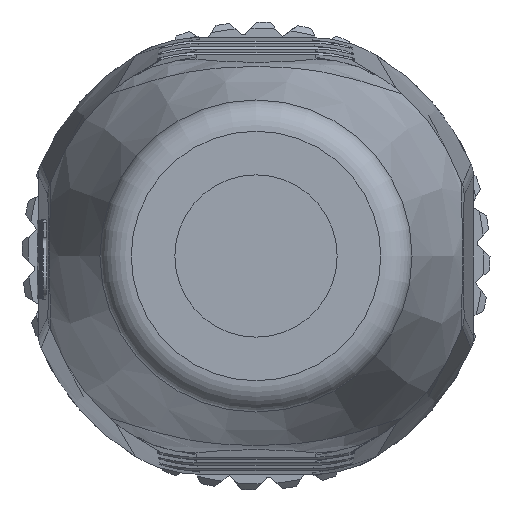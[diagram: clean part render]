
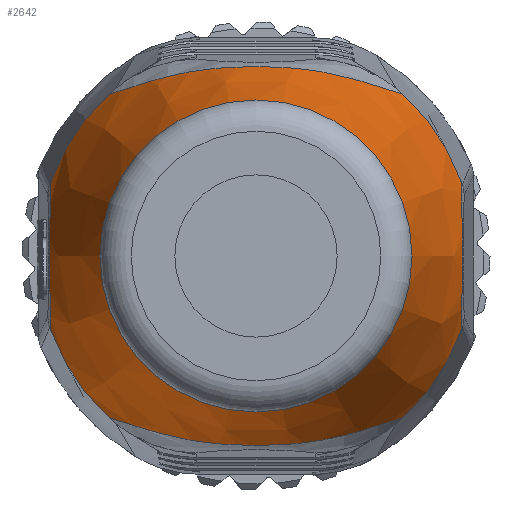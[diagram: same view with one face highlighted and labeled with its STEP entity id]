
A CAD part, front view. The second image highlights one B-rep face of the part: STEP entity #2642.
In plain terms, the highlighted conical face has half-angle 15.945 degrees and reference radius 5 mm.
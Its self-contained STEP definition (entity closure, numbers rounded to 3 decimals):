
#184=CONICAL_SURFACE('',#9843,5.,15.945);
#1059=B_SPLINE_CURVE_WITH_KNOTS('',3,(#14063,#14064,#14065,#14066,#14067,
#14068,#14069,#14070,#14071,#14072,#14073,#14074,#14075,#14076),
 .UNSPECIFIED.,.F.,.F.,(4,2,2,2,2,2,4),(0.,0.125,0.25,0.5,0.625,0.75,1.),
 .UNSPECIFIED.);
#1060=B_SPLINE_CURVE_WITH_KNOTS('',3,(#14080,#14081,#14082,#14083,#14084,
#14085,#14086,#14087,#14088,#14089,#14090,#14091,#14092,#14093,#14094,#14095,
#14096,#14097,#14098,#14099,#14100,#14101),.UNSPECIFIED.,.F.,.F.,(4,2,2,
2,2,2,2,2,2,2,4),(0.,0.125,0.188,0.219,0.25,0.5,0.625,0.688,0.719,
0.75,1.),.UNSPECIFIED.);
#1061=B_SPLINE_CURVE_WITH_KNOTS('',3,(#14105,#14106,#14107,#14108,#14109,
#14110,#14111,#14112,#14113,#14114,#14115,#14116,#14117,#14118),
 .UNSPECIFIED.,.F.,.F.,(4,2,2,2,2,2,4),(0.,0.125,0.25,0.5,0.625,0.75,1.),
 .UNSPECIFIED.);
#1062=B_SPLINE_CURVE_WITH_KNOTS('',3,(#14122,#14123,#14124,#14125,#14126,
#14127,#14128,#14129,#14130,#14131,#14132,#14133,#14134,#14135,#14136,#14137,
#14138,#14139,#14140,#14141,#14142,#14143),.UNSPECIFIED.,.F.,.F.,(4,2,2,
2,2,2,2,2,2,2,4),(0.,0.125,0.188,0.219,0.25,0.5,0.625,0.688,0.719,
0.75,1.),.UNSPECIFIED.);
#2642=ADVANCED_FACE('',(#3369,#3370),#184,.T.);
#3369=FACE_BOUND('',#3575,.T.);
#3370=FACE_BOUND('',#3576,.T.);
#3575=EDGE_LOOP('',(#4341));
#3576=EDGE_LOOP('',(#4342,#4343,#4344,#4345,#4346,#4347,#4348,#4349));
#4341=ORIENTED_EDGE('',*,*,#8104,.F.);
#4342=ORIENTED_EDGE('',*,*,#8105,.T.);
#4343=ORIENTED_EDGE('',*,*,#8106,.T.);
#4344=ORIENTED_EDGE('',*,*,#8107,.T.);
#4345=ORIENTED_EDGE('',*,*,#8108,.T.);
#4346=ORIENTED_EDGE('',*,*,#8109,.T.);
#4347=ORIENTED_EDGE('',*,*,#8110,.T.);
#4348=ORIENTED_EDGE('',*,*,#8111,.T.);
#4349=ORIENTED_EDGE('',*,*,#8112,.T.);
#7129=VERTEX_POINT('',#14059);
#7130=VERTEX_POINT('',#14061);
#7131=VERTEX_POINT('',#14062);
#7132=VERTEX_POINT('',#14077);
#7133=VERTEX_POINT('',#14079);
#7134=VERTEX_POINT('',#14102);
#7135=VERTEX_POINT('',#14104);
#7136=VERTEX_POINT('',#14119);
#7137=VERTEX_POINT('',#14121);
#8104=EDGE_CURVE('',#7129,#7129,#9391,.T.);
#8105=EDGE_CURVE('',#7130,#7131,#9392,.T.);
#8106=EDGE_CURVE('',#7131,#7132,#1059,.T.);
#8107=EDGE_CURVE('',#7132,#7133,#9393,.T.);
#8108=EDGE_CURVE('',#7133,#7134,#1060,.T.);
#8109=EDGE_CURVE('',#7134,#7135,#9394,.T.);
#8110=EDGE_CURVE('',#7135,#7136,#1061,.T.);
#8111=EDGE_CURVE('',#7136,#7137,#9395,.T.);
#8112=EDGE_CURVE('',#7137,#7130,#1062,.T.);
#9391=CIRCLE('',#9838,5.);
#9392=CIRCLE('',#9839,7.);
#9393=CIRCLE('',#9840,7.);
#9394=CIRCLE('',#9841,7.);
#9395=CIRCLE('',#9842,7.);
#9838=AXIS2_PLACEMENT_3D('',#14058,#10889,#10890);
#9839=AXIS2_PLACEMENT_3D('',#14060,#10891,#10892);
#9840=AXIS2_PLACEMENT_3D('',#14078,#10893,#10894);
#9841=AXIS2_PLACEMENT_3D('',#14103,#10895,#10896);
#9842=AXIS2_PLACEMENT_3D('',#14120,#10897,#10898);
#9843=AXIS2_PLACEMENT_3D('',#14144,#10899,#10900);
#10889=DIRECTION('',(0.,-1.,0.));
#10890=DIRECTION('',(1.,0.,0.));
#10891=DIRECTION('',(0.,-1.,0.));
#10892=DIRECTION('',(1.,0.,0.));
#10893=DIRECTION('',(0.,-1.,0.));
#10894=DIRECTION('',(1.,0.,0.));
#10895=DIRECTION('',(0.,-1.,0.));
#10896=DIRECTION('',(1.,0.,0.));
#10897=DIRECTION('',(0.,-1.,0.));
#10898=DIRECTION('',(1.,0.,0.));
#10899=DIRECTION('',(0.,1.,0.));
#10900=DIRECTION('',(1.,0.,0.));
#14058=CARTESIAN_POINT('',(0.,-18.1,0.));
#14059=CARTESIAN_POINT('',(5.,-18.1,0.));
#14060=CARTESIAN_POINT('',(0.,-11.1,0.));
#14061=CARTESIAN_POINT('',(4.699,-11.1,-5.189));
#14062=CARTESIAN_POINT('',(6.576,-11.1,-2.399));
#14063=CARTESIAN_POINT('',(6.576,-11.1,-2.399));
#14064=CARTESIAN_POINT('',(6.581,-11.298,-2.221));
#14065=CARTESIAN_POINT('',(6.585,-11.475,-2.044));
#14066=CARTESIAN_POINT('',(6.594,-11.785,-1.689));
#14067=CARTESIAN_POINT('',(6.596,-11.889,-1.559));
#14068=CARTESIAN_POINT('',(6.609,-12.314,-0.887));
#14069=CARTESIAN_POINT('',(6.613,-12.455,-0.448));
#14070=CARTESIAN_POINT('',(6.613,-12.455,0.224));
#14071=CARTESIAN_POINT('',(6.612,-12.419,0.446));
#14072=CARTESIAN_POINT('',(6.607,-12.278,0.891));
#14073=CARTESIAN_POINT('',(6.604,-12.142,1.159));
#14074=CARTESIAN_POINT('',(6.594,-11.805,1.691));
#14075=CARTESIAN_POINT('',(6.586,-11.495,2.043));
#14076=CARTESIAN_POINT('',(6.576,-11.1,2.399));
#14077=CARTESIAN_POINT('',(6.576,-11.1,2.399));
#14078=CARTESIAN_POINT('',(0.,-11.1,0.));
#14079=CARTESIAN_POINT('',(4.699,-11.1,5.189));
#14080=CARTESIAN_POINT('',(4.699,-11.1,5.189));
#14081=CARTESIAN_POINT('',(4.429,-11.534,5.265));
#14082=CARTESIAN_POINT('',(4.129,-11.933,5.365));
#14083=CARTESIAN_POINT('',(3.626,-12.478,5.525));
#14084=CARTESIAN_POINT('',(3.449,-12.651,5.58));
#14085=CARTESIAN_POINT('',(3.169,-12.897,5.661));
#14086=CARTESIAN_POINT('',(3.073,-12.977,5.687));
#14087=CARTESIAN_POINT('',(2.877,-13.132,5.74));
#14088=CARTESIAN_POINT('',(2.802,-13.19,5.759));
#14089=CARTESIAN_POINT('',(1.642,-14.013,6.035));
#14090=CARTESIAN_POINT('',(0.759,-14.379,6.063));
#14091=CARTESIAN_POINT('',(-0.38,-14.379,6.063));
#14092=CARTESIAN_POINT('',(-0.788,-14.288,6.054));
#14093=CARTESIAN_POINT('',(-1.455,-14.013,5.998));
#14094=CARTESIAN_POINT('',(-1.686,-13.899,5.972));
#14095=CARTESIAN_POINT('',(-2.046,-13.693,5.917));
#14096=CARTESIAN_POINT('',(-2.168,-13.619,5.896));
#14097=CARTESIAN_POINT('',(-2.417,-13.458,5.848));
#14098=CARTESIAN_POINT('',(-2.57,-13.354,5.814));
#14099=CARTESIAN_POINT('',(-3.498,-12.695,5.593));
#14100=CARTESIAN_POINT('',(-4.16,-11.968,5.342));
#14101=CARTESIAN_POINT('',(-4.699,-11.1,5.189));
#14102=CARTESIAN_POINT('',(-4.699,-11.1,5.189));
#14103=CARTESIAN_POINT('',(0.,-11.1,0.));
#14104=CARTESIAN_POINT('',(-6.576,-11.1,2.399));
#14105=CARTESIAN_POINT('',(-6.576,-11.1,2.399));
#14106=CARTESIAN_POINT('',(-6.581,-11.298,2.221));
#14107=CARTESIAN_POINT('',(-6.585,-11.475,2.044));
#14108=CARTESIAN_POINT('',(-6.594,-11.785,1.689));
#14109=CARTESIAN_POINT('',(-6.596,-11.889,1.559));
#14110=CARTESIAN_POINT('',(-6.609,-12.314,0.887));
#14111=CARTESIAN_POINT('',(-6.613,-12.455,0.448));
#14112=CARTESIAN_POINT('',(-6.613,-12.455,-0.224));
#14113=CARTESIAN_POINT('',(-6.612,-12.419,-0.446));
#14114=CARTESIAN_POINT('',(-6.607,-12.278,-0.891));
#14115=CARTESIAN_POINT('',(-6.604,-12.142,-1.159));
#14116=CARTESIAN_POINT('',(-6.594,-11.805,-1.691));
#14117=CARTESIAN_POINT('',(-6.586,-11.495,-2.043));
#14118=CARTESIAN_POINT('',(-6.576,-11.1,-2.399));
#14119=CARTESIAN_POINT('',(-6.576,-11.1,-2.399));
#14120=CARTESIAN_POINT('',(0.,-11.1,0.));
#14121=CARTESIAN_POINT('',(-4.699,-11.1,-5.189));
#14122=CARTESIAN_POINT('',(-4.699,-11.1,-5.189));
#14123=CARTESIAN_POINT('',(-4.429,-11.534,-5.265));
#14124=CARTESIAN_POINT('',(-4.129,-11.933,-5.365));
#14125=CARTESIAN_POINT('',(-3.626,-12.478,-5.525));
#14126=CARTESIAN_POINT('',(-3.449,-12.651,-5.58));
#14127=CARTESIAN_POINT('',(-3.169,-12.897,-5.661));
#14128=CARTESIAN_POINT('',(-3.073,-12.977,-5.687));
#14129=CARTESIAN_POINT('',(-2.877,-13.132,-5.74));
#14130=CARTESIAN_POINT('',(-2.802,-13.19,-5.759));
#14131=CARTESIAN_POINT('',(-1.642,-14.013,-6.035));
#14132=CARTESIAN_POINT('',(-0.759,-14.379,-6.063));
#14133=CARTESIAN_POINT('',(0.38,-14.379,-6.063));
#14134=CARTESIAN_POINT('',(0.788,-14.288,-6.054));
#14135=CARTESIAN_POINT('',(1.455,-14.013,-5.998));
#14136=CARTESIAN_POINT('',(1.686,-13.899,-5.972));
#14137=CARTESIAN_POINT('',(2.046,-13.693,-5.917));
#14138=CARTESIAN_POINT('',(2.168,-13.619,-5.896));
#14139=CARTESIAN_POINT('',(2.417,-13.458,-5.848));
#14140=CARTESIAN_POINT('',(2.57,-13.354,-5.814));
#14141=CARTESIAN_POINT('',(3.498,-12.695,-5.593));
#14142=CARTESIAN_POINT('',(4.16,-11.968,-5.342));
#14143=CARTESIAN_POINT('',(4.699,-11.1,-5.189));
#14144=CARTESIAN_POINT('',(0.,-18.1,0.));
